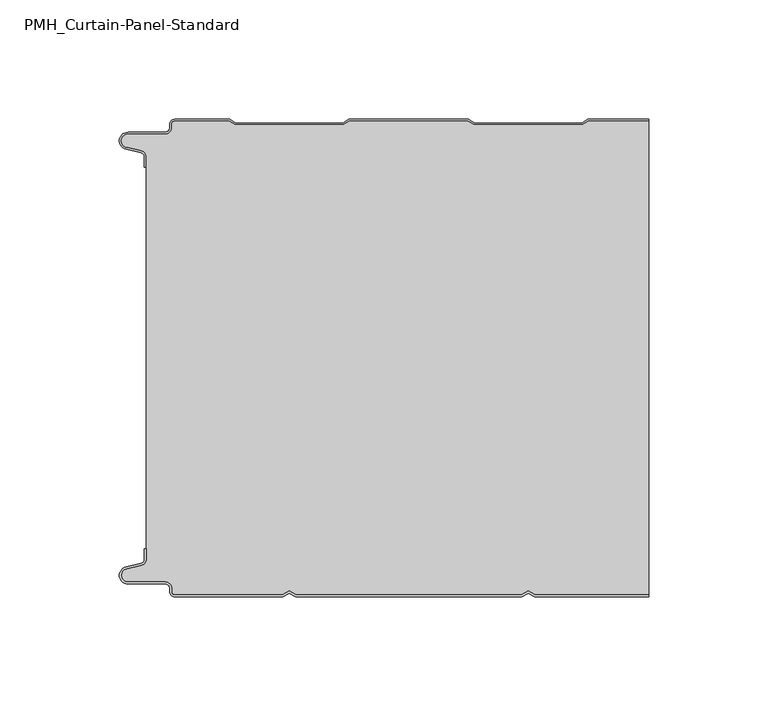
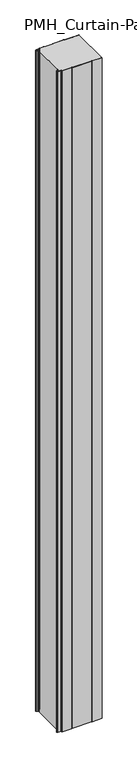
"""IFC4 building model written with IfcOpenShell, lengths in millimetres: plate geometry, PMH_Curtain-Panel-Standard : ACH_PMH_Acoustic-Sectioning-Panel_200M."""

from ifc_helpers import new_model, si_unit, point, frame_2d, origin, origin_with_axes, place, context, project, spatial, polyline, circle_curve, trimmed, segment, composite_curve, outline, extrude, source, transform, mapped, element, save


def pmh_curtain_panel_standard_71c8e410(model_context):
    return source(origin(), model_context, "Body", "SweptSolid", [
        extrude(outline(composite_curve([segment(polyline([(-100.0, 15.878557), (-100.0, 20.0), (-99.2, 20.0), (-99.2, 15.878557)]), True, "CONTINUOUS"), segment(trimmed(circle_curve(frame_2d((-102.0, 15.878557)), 2.8), [point((-99.2, 15.878557))], [point((-101.370137, 13.1503208))], False, "CARTESIAN"), True, "CONTINUOUS"), segment(polyline([(-101.370137, 13.1503208), (-107.529863, 11.728236)]), True, "CONTINUOUS"), segment(trimmed(circle_curve(frame_2d((-106.9, 9.0)), 2.8), [point((-107.529863, 11.728236))], [point((-106.9, 6.2))], True, "CARTESIAN"), True, "CONTINUOUS"), segment(polyline([(-106.9, 6.2), (-91.4, 6.2)]), True, "CONTINUOUS"), segment(trimmed(circle_curve(frame_2d((-91.4, 3.4)), 2.8), [point((-91.4, 6.2))], [point((-88.6, 3.4))], False, "CARTESIAN"), True, "CONTINUOUS"), segment(polyline([(-88.6, 3.4), (-88.6, 2.0)]), True, "CONTINUOUS"), segment(trimmed(circle_curve(frame_2d((-87.4, 2.0)), 1.2), [point((-88.6, 2.0))], [point((-87.4, 0.8))], True, "CARTESIAN"), True, "CONTINUOUS"), segment(polyline([(-87.4, 0.8), (-42.3143588, 0.8), (-39.4, 2.482606), (-36.4856412, 0.8), (57.6856412, 0.8), (60.6, 2.482606), (63.5143588, 0.8), (111.0, 0.8), (111.0, 0.0), (63.2999995, 0.0), (60.6, 1.5588455), (57.9000005, 0.0), (-36.7000005, 0.0), (-39.4, 1.5588455), (-42.0999995, 0.0), (-87.4, 0.0)]), True, "CONTINUOUS"), segment(trimmed(circle_curve(frame_2d((-87.4, 2.0)), 2.0), [point((-87.4, 0.0))], [point((-89.4, 2.0))], False, "CARTESIAN"), True, "CONTINUOUS"), segment(polyline([(-89.4, 2.0), (-89.4, 3.4)]), True, "CONTINUOUS"), segment(trimmed(circle_curve(frame_2d((-91.4, 3.4)), 2.0), [point((-89.4, 3.4))], [point((-91.4, 5.4))], True, "CARTESIAN"), True, "CONTINUOUS"), segment(polyline([(-91.4, 5.4), (-106.9, 5.4)]), True, "CONTINUOUS"), segment(trimmed(circle_curve(frame_2d((-106.9, 9.0)), 3.6), [point((-106.9, 5.4))], [point((-107.7098239, 12.5077322))], False, "CARTESIAN"), True, "CONTINUOUS"), segment(polyline([(-107.7098239, 12.5077322), (-101.5500979, 13.929817)]), True, "CONTINUOUS"), segment(trimmed(circle_curve(frame_2d((-102.0, 15.878557)), 2.0), [point((-101.5500979, 13.929817))], [point((-100.0, 15.878557))], True, "CARTESIAN"), True, "CONTINUOUS")], self_intersect=False)), origin_with_axes(), (0.0, 0.0, 1.0), 3500.0),
        extrude(outline(composite_curve([segment(trimmed(circle_curve(frame_2d((-102.0, 184.121443)), 2.8), [point((-99.2, 184.121443))], [point((-101.370137, 186.8496792))], True, "CARTESIAN"), True, "CONTINUOUS"), segment(polyline([(-101.370137, 186.8496792), (-107.529863, 188.271764)]), True, "CONTINUOUS"), segment(trimmed(circle_curve(frame_2d((-106.9, 191.0)), 2.7999998), [point((-107.529863, 188.271764))], [point((-106.9, 193.7999998))], False, "CARTESIAN"), True, "CONTINUOUS"), segment(polyline([(-106.9, 193.7999998), (-91.4, 193.7999998)]), True, "CONTINUOUS"), segment(trimmed(circle_curve(frame_2d((-91.4, 196.5999998)), 2.8), [point((-91.4, 193.7999998))], [point((-88.6, 196.5999998))], True, "CARTESIAN"), True, "CONTINUOUS"), segment(polyline([(-88.6, 196.5999998), (-88.6, 198.0)]), True, "CONTINUOUS"), segment(trimmed(circle_curve(frame_2d((-87.4, 198.0)), 1.2), [point((-88.6, 198.0))], [point((-87.4, 199.2))], False, "CARTESIAN"), True, "CONTINUOUS"), segment(polyline([(-87.4, 199.2), (-64.6143592, 199.2), (-62.0162816, 197.7), (-16.7875654, 197.7), (-14.1894878, 199.2), (35.3856408, 199.2), (37.9837184, 197.7), (83.2124346, 197.7), (85.8105122, 199.2), (111.0, 199.2), (111.0, 0.8), (63.5143588, 0.8), (60.5999999, 2.482606), (57.6856411, 0.8), (-36.4856412, 0.8), (-39.4000001, 2.482606), (-42.3143589, 0.8), (-87.4000001, 0.8)]), True, "CONTINUOUS"), segment(trimmed(circle_curve(frame_2d((-87.4000001, 2.0)), 1.2), [point((-87.4000001, 0.8))], [point((-88.6000001, 2.0))], False, "CARTESIAN"), True, "CONTINUOUS"), segment(polyline([(-88.6000001, 2.0), (-88.6000001, 3.4)]), True, "CONTINUOUS"), segment(trimmed(circle_curve(frame_2d((-91.4000001, 3.4)), 2.8), [point((-88.6000001, 3.4))], [point((-91.4000001, 6.2))], True, "CARTESIAN"), True, "CONTINUOUS"), segment(polyline([(-91.4000001, 6.2), (-106.9, 6.2)]), True, "CONTINUOUS"), segment(trimmed(circle_curve(frame_2d((-106.9, 9.0)), 2.8), [point((-106.9, 6.2))], [point((-107.5298631, 11.7282362))], False, "CARTESIAN"), True, "CONTINUOUS"), segment(polyline([(-107.5298631, 11.7282362), (-101.370137, 13.1503212)]), True, "CONTINUOUS"), segment(trimmed(circle_curve(frame_2d((-102.0, 15.8785573)), 2.8), [point((-101.370137, 13.1503212))], [point((-99.2, 15.8785573))], True, "CARTESIAN"), True, "CONTINUOUS"), segment(polyline([(-99.2, 15.8785573), (-99.2, 184.121443)]), True, "CONTINUOUS")], self_intersect=False)), origin_with_axes(), (0.0, 0.0, 1.0), 3500.0),
        extrude(outline(composite_curve([segment(polyline([(-87.4, 200.0), (-64.3999999, 200.0), (-61.8019223, 198.5), (-17.0019247, 198.5), (-14.4038471, 200.0), (35.6000001, 200.0), (38.1980777, 198.5), (82.9980753, 198.5), (85.5961529, 200.0), (111.0, 200.0), (111.0, 199.2), (85.8105122, 199.2), (83.2124346, 197.7), (37.9837184, 197.7), (35.3856408, 199.2), (-14.1894878, 199.2), (-16.7875654, 197.7), (-62.0162816, 197.7), (-64.6143592, 199.2), (-87.4, 199.2)]), True, "CONTINUOUS"), segment(trimmed(circle_curve(frame_2d((-87.4, 198.0)), 1.2), [point((-87.4, 199.2))], [point((-88.6, 198.0))], True, "CARTESIAN"), True, "CONTINUOUS"), segment(polyline([(-88.6, 198.0), (-88.6, 196.6)]), True, "CONTINUOUS"), segment(trimmed(circle_curve(frame_2d((-91.4, 196.6)), 2.8), [point((-88.6, 196.6))], [point((-91.4, 193.8))], False, "CARTESIAN"), True, "CONTINUOUS"), segment(polyline([(-91.4, 193.8), (-106.9, 193.8)]), True, "CONTINUOUS"), segment(trimmed(circle_curve(frame_2d((-106.9, 191.0)), 2.8), [point((-106.9, 193.8))], [point((-107.529863, 188.2717638))], True, "CARTESIAN"), True, "CONTINUOUS"), segment(polyline([(-107.529863, 188.2717638), (-101.370137, 186.849679)]), True, "CONTINUOUS"), segment(trimmed(circle_curve(frame_2d((-102.0, 184.121443)), 2.8), [point((-101.370137, 186.849679))], [point((-99.2, 184.121443))], False, "CARTESIAN"), True, "CONTINUOUS"), segment(polyline([(-99.2, 184.121443), (-99.2, 180.0), (-100.0, 180.0), (-100.0, 184.121443)]), True, "CONTINUOUS"), segment(trimmed(circle_curve(frame_2d((-102.0, 184.121443)), 2.0), [point((-100.0, 184.121443))], [point((-101.5500978, 186.0701831))], True, "CARTESIAN"), True, "CONTINUOUS"), segment(polyline([(-101.5500978, 186.0701831), (-107.7098239, 187.492268)]), True, "CONTINUOUS"), segment(trimmed(circle_curve(frame_2d((-106.9, 191.0)), 3.6), [point((-107.7098239, 187.492268))], [point((-106.9, 194.6))], False, "CARTESIAN"), True, "CONTINUOUS"), segment(polyline([(-106.9, 194.6), (-91.4, 194.6)]), True, "CONTINUOUS"), segment(trimmed(circle_curve(frame_2d((-91.4, 196.6)), 2.0), [point((-91.4, 194.6))], [point((-89.4, 196.6))], True, "CARTESIAN"), True, "CONTINUOUS"), segment(polyline([(-89.4, 196.6), (-89.4, 198.0)]), True, "CONTINUOUS"), segment(trimmed(circle_curve(frame_2d((-87.4, 198.0)), 2.0), [point((-89.4, 198.0))], [point((-87.4, 200.0))], False, "CARTESIAN"), True, "CONTINUOUS")], self_intersect=False)), origin_with_axes(), (0.0, 0.0, 1.0), 3500.0),
    ])


if __name__ == "__main__":
    model = new_model("IFC4")
    model_context = context("Model", 3, world=origin())
    ifc_project = project(units=[si_unit("LENGTHUNIT", "METRE", prefix="MILLI")], contexts=[model_context])
    site = spatial("IfcSite", under=ifc_project)
    building = spatial("IfcBuilding", under=site)
    placement = place(None, origin())
    pmh_curtain_panel_standard_shape = pmh_curtain_panel_standard_71c8e410(model_context)
    element("IfcPlate", 1, ObjectType="PMH_Curtain-Panel-Standard : ACH_PMH_Acoustic-Sectioning-Panel_200M", at=placement, inside=building, context=model_context, shape_type="MappedRepresentation", body=[
        mapped(pmh_curtain_panel_standard_shape, transform((0.0, 0.0, 0.0), x_axis=(1.0, 0.0, 0.0), y_axis=(0.0, 1.0, 0.0), z_axis=(0.0, 0.0, 1.0))),
    ])
    save(model, "model.ifc")
